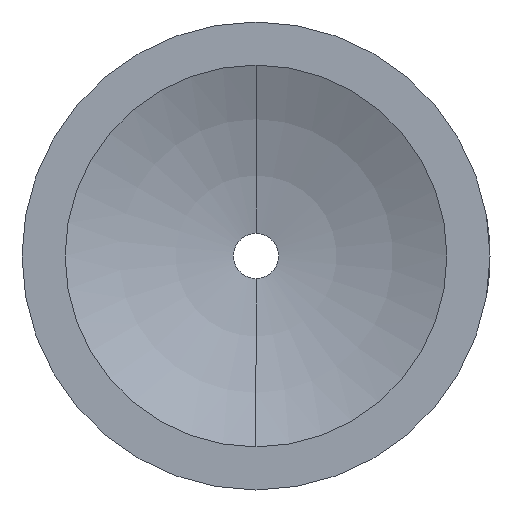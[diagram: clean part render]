
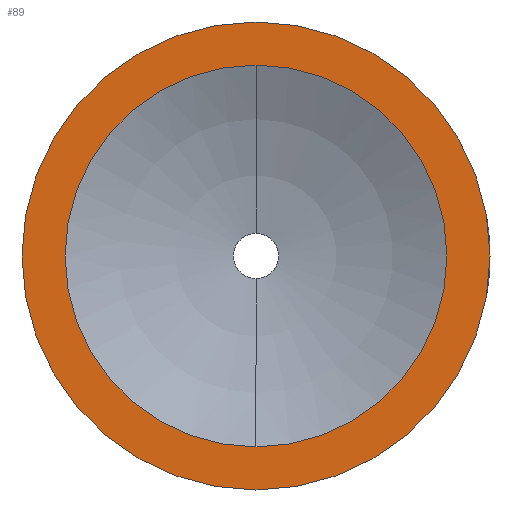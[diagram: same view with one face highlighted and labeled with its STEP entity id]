
A CAD part, left-side view. The second image highlights one B-rep face of the part: STEP entity #89.
In plain terms, the highlighted planar face has unit normal (-1, 0, 0).
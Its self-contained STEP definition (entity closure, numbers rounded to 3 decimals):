
#16 = DIRECTION ( 'NONE',  ( 0., 0., 1. ) ) ;
#30 = DIRECTION ( 'NONE',  ( -1., 0., 0. ) ) ;
#48 = DIRECTION ( 'NONE',  ( -1., 0., 0. ) ) ;
#61 = CIRCLE ( 'NONE', #170, 15.5 ) ;
#63 = ORIENTED_EDGE ( 'NONE', *, *, #354, .T. ) ;
#64 = EDGE_CURVE ( 'NONE', #202, #171, #61, .T. ) ;
#84 = EDGE_LOOP ( 'NONE', ( #362, #63 ) ) ;
#89 = ADVANCED_FACE ( 'NONE', ( #372, #169 ), #528, .F. ) ;
#106 = ORIENTED_EDGE ( 'NONE', *, *, #478, .F. ) ;
#116 = DIRECTION ( 'NONE',  ( 0., 0., 1. ) ) ;
#133 = CARTESIAN_POINT ( 'NONE',  ( 0., 0., 0. ) ) ;
#144 = DIRECTION ( 'NONE',  ( 0., 0., 1. ) ) ;
#152 = ORIENTED_EDGE ( 'NONE', *, *, #64, .F. ) ;
#169 = FACE_OUTER_BOUND ( 'NONE', #84, .T. ) ;
#170 = AXIS2_PLACEMENT_3D ( 'NONE', #536, #30, #116 ) ;
#171 = VERTEX_POINT ( 'NONE', #292 ) ;
#196 = DIRECTION ( 'NONE',  ( 0., 0., -1. ) ) ;
#202 = VERTEX_POINT ( 'NONE', #330 ) ;
#214 = CARTESIAN_POINT ( 'NONE',  ( 0., 0., 19. ) ) ;
#232 = DIRECTION ( 'NONE',  ( 1., 0., 0. ) ) ;
#248 = AXIS2_PLACEMENT_3D ( 'NONE', #133, #385, #144 ) ;
#257 = CIRCLE ( 'NONE', #518, 19. ) ;
#263 = CARTESIAN_POINT ( 'NONE',  ( 0., 0., 0. ) ) ;
#292 = CARTESIAN_POINT ( 'NONE',  ( 0., 0., 15.5 ) ) ;
#294 = DIRECTION ( 'NONE',  ( -1., 0., 0. ) ) ;
#303 = EDGE_CURVE ( 'NONE', #440, #346, #257, .T. ) ;
#322 = CARTESIAN_POINT ( 'NONE',  ( 0., 1.75, 0. ) ) ;
#330 = CARTESIAN_POINT ( 'NONE',  ( 0., 0., -15.5 ) ) ;
#346 = VERTEX_POINT ( 'NONE', #430 ) ;
#354 = EDGE_CURVE ( 'NONE', #346, #440, #375, .T. ) ;
#362 = ORIENTED_EDGE ( 'NONE', *, *, #303, .T. ) ;
#372 = FACE_BOUND ( 'NONE', #374, .T. ) ;
#374 = EDGE_LOOP ( 'NONE', ( #106, #152 ) ) ;
#375 = CIRCLE ( 'NONE', #382, 19. ) ;
#378 = CIRCLE ( 'NONE', #248, 15.5 ) ;
#382 = AXIS2_PLACEMENT_3D ( 'NONE', #263, #294, #544 ) ;
#385 = DIRECTION ( 'NONE',  ( -1., 0., 0. ) ) ;
#391 = CARTESIAN_POINT ( 'NONE',  ( 0., 0., 0. ) ) ;
#430 = CARTESIAN_POINT ( 'NONE',  ( 0., 0., -19. ) ) ;
#440 = VERTEX_POINT ( 'NONE', #214 ) ;
#473 = AXIS2_PLACEMENT_3D ( 'NONE', #322, #232, #196 ) ;
#478 = EDGE_CURVE ( 'NONE', #171, #202, #378, .T. ) ;
#518 = AXIS2_PLACEMENT_3D ( 'NONE', #391, #48, #16 ) ;
#528 = PLANE ( 'NONE',  #473 ) ;
#536 = CARTESIAN_POINT ( 'NONE',  ( 0., 0., 0. ) ) ;
#544 = DIRECTION ( 'NONE',  ( 0., 0., 1. ) ) ;
